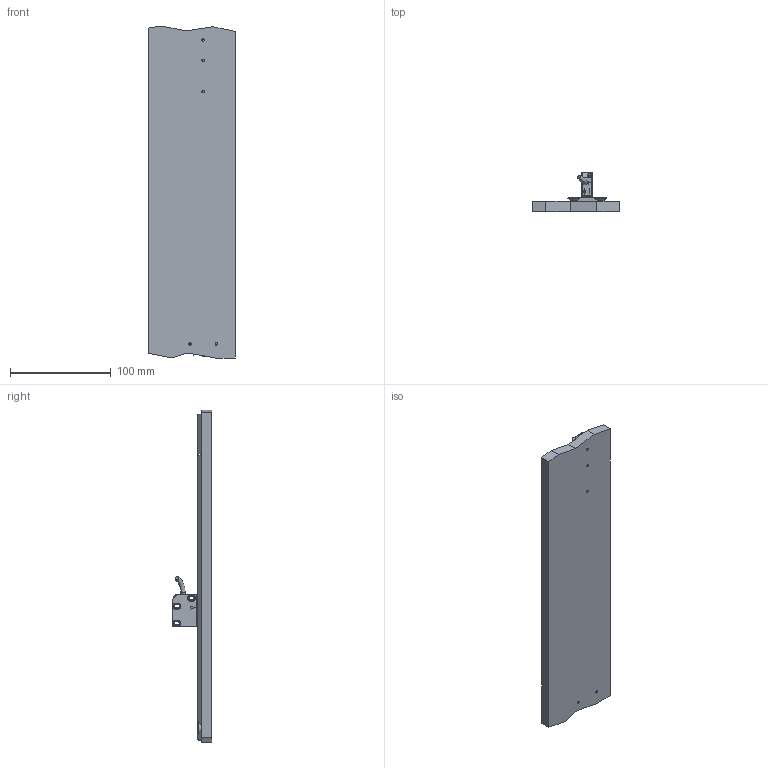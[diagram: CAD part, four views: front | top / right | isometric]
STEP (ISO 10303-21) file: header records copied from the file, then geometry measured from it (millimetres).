
FILE_DESCRIPTION (( 'STEP AP214' ), '1' );
FILE_NAME ('LM10-MS10-rail-track-system.STEP', '2021-10-04T12:22:43', ( '' ), ( '' ), 'SwSTEP 2.0', 'SolidWorks 2020', '' );
FILE_SCHEMA (( 'AUTOMOTIVE_DESIGN' ));
Length unit declared in the file: millimetre
Products named in the file (9): Bolt_M3x10_RLS; LM10-MS10-rail-track-system; Profile-1; LM10-1-magnetic-stripe; Washer-conicalM3; base; LM10-readhead; Bolt_M2x4_RLS; Profile-2
Assembly tree (13 placements, depth 2):
  LM10-MS10-rail-track-system
    base
    Profile-2
    LM10-1-magnetic-stripe
    LM10-readhead
    Profile-1
    Bolt_M3x10_RLS  x5
    Washer-conicalM3  x2
    Bolt_M2x4_RLS
Bounding box: 86.11 x 39.05 x 328.93 mm (x, y, z)
Volume: 309032.1 mm3; surface area: 91942.6 mm2
Topology: 13 solids, 13 shells, 498 faces, 1193 edges, 738 vertices
Faces by surface type: plane 262, cylinder 137, cone 79, torus 14, bspline 4, sphere 2
Entity records: 12206 total; most frequent: CARTESIAN_POINT 2589, DIRECTION 1957, ORIENTED_EDGE 1874, EDGE_CURVE 937, AXIS2_PLACEMENT_3D 680, VECTOR 597, LINE 597, VERTEX_POINT 593
